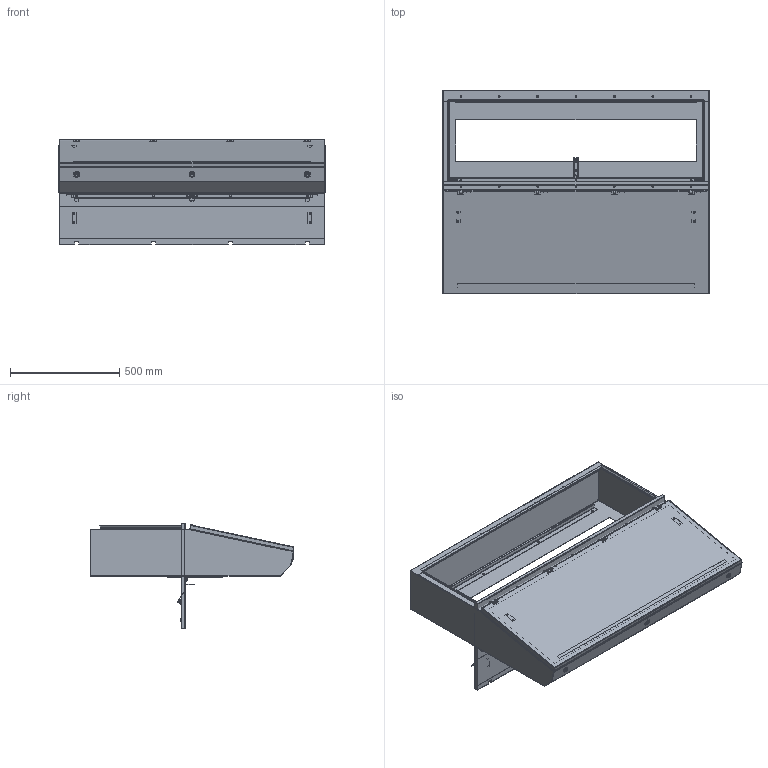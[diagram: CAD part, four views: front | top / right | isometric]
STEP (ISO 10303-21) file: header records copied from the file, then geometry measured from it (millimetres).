
FILE_DESCRIPTION( ( 'Unknown' ), '1' );
FILE_NAME( 'Q:/2000 SERIES/DESK UNITS/WEB DRAWINGS/STEP/2CSD84836.stp', 'Unknown', ( 'Unknown' ), ( 'Unknown' ), 'XStep 1.0', 'Unknown', ' ' );
FILE_SCHEMA( ( 'CONFIG_CONTROL_DESIGN' ) );
Length unit declared in the file: millimetre
Products named in the file (32): Assem1; Assem2; Assem3; Assem4; Assem5; Assem6; Assem7; Assem8; Assem9; 1; 2; 3; 4; 5; 6; 7; 8; 9; 10; 11; 12; 13; 14; 15; 16; 17; 18; 19; 20; 21; 22; 23
Bounding box: 1219.2 x 931.77 x 482.6 mm (x, y, z)
Volume: 15622902.7 mm3; surface area: 17073125.9 mm2
Topology: 129 solids, 129 shells, 3059 faces, 7614 edges, 4939 vertices
Faces by surface type: plane 1994, cylinder 868, bspline 84, cone 58, torus 45, sphere 10
Full cylindrical faces by diameter (mm): 3.175 x20, 4.648 x10, 4.763 x20, 4.801 x12, 5 x11, 5.537 x30, 5.969 x6, 6 x5, 6.096 x6, 6.299 x5, 6.35 x22, 7.137 x18, 7.925 x5, 7.938 x18, 8.331 x5, 9.804 x15, 9.83 x10, 9.931 x9, 10.312 x5, 11.1 x5, 12.7 x20, 12.751 x5, 13.335 x5, 15.875 x5, 16.002 x5, 17.45 x5, 19.5 x5, 19.939 x5, 25.4 x5
Entity records: 24973 total; most frequent: CARTESIAN_POINT 5385, DIRECTION 3715, ORIENTED_EDGE 3646, EDGE_CURVE 1823, LINE 1321, VECTOR 1321, VERTEX_POINT 1211, AXIS2_PLACEMENT_3D 1197
